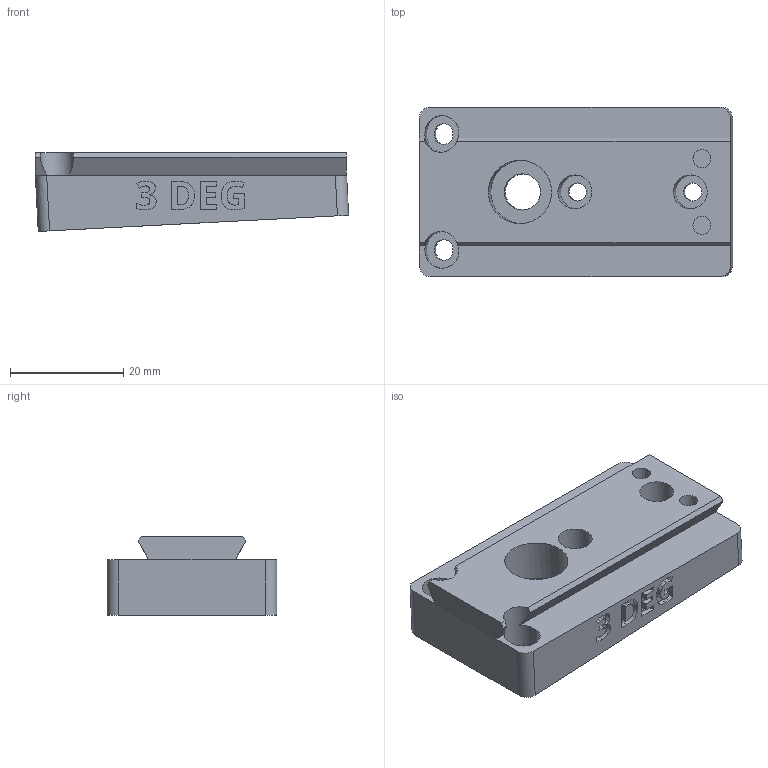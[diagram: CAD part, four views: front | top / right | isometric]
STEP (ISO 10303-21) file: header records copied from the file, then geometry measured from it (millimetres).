
FILE_DESCRIPTION(/* description */ ('STEP AP242 Edition 2','CAx-IF Rec.Pracs.---Representation and Presentation of Product Manufacturing Information (PMI)---4.0---2014-10-13','CAx-IF Rec.Pracs.---3D Tessellated Geometry---0.4---2014-09-14','2;1','CAx-IF Rec.Pracs.---User Defined Attributes---1.5---2016-08-15'),/* implementation_level */ '2;1');
FILE_NAME(/* name */ 'Camera Wedges - CAMERA MOUNTING WEDGE, POS, 3 DEG',/* time_stamp */ '2026-07-08T20:39:23Z',/* author */ (''),/* organization */ (''),/* preprocessor_version */ 'ST-DEVELOPER v20',/* originating_system */ 'ONSHAPE BY PTC INC, 1.217',/* authorisation */ ' ');
FILE_SCHEMA (('AP242_MANAGED_MODEL_BASED_3D_ENGINEERING_MIM_LF { 1 0 10303 442 3 1 4 }'));
Length unit declared in the file: metre
Products named in the file (1): CAMERA MOUNTING WEDGE, POS, 3 DEG
Bounding box: 55.44 x 30 x 13.97 mm (x, y, z)
Volume: 14876 mm3; surface area: 6831.3 mm2
Topology: 1 solids, 1 shells, 227 faces, 628 edges, 419 vertices
Faces by surface type: plane 121, bspline 64, cylinder 42
Full cylindrical faces by diameter (mm): 3.2 x4, 6 x2, 6.4 x1, 11.2 x1
Entity records: 7417 total; most frequent: CARTESIAN_POINT 1965, ORIENTED_EDGE 1234, DIRECTION 913, EDGE_CURVE 617, VERTEX_POINT 416, LINE 393, VECTOR 393, EDGE_LOOP 261
